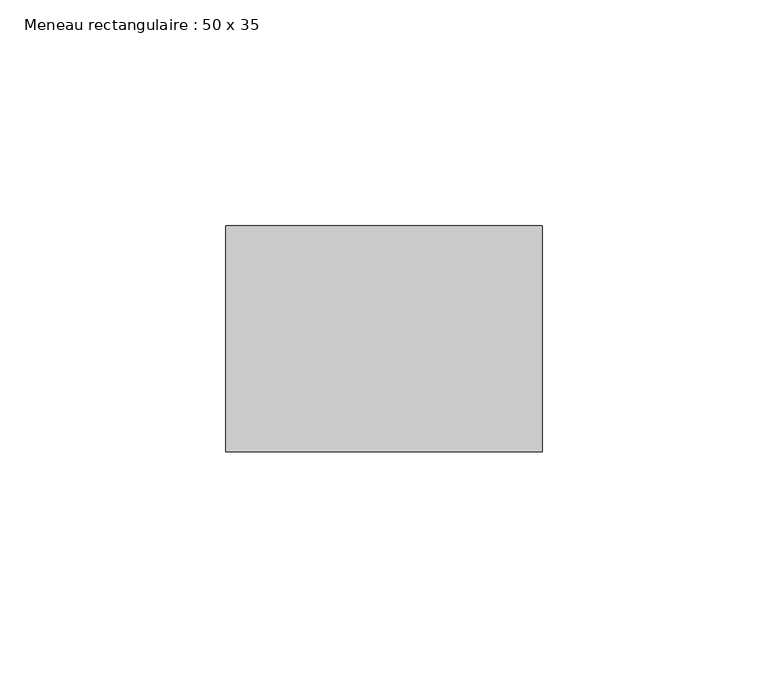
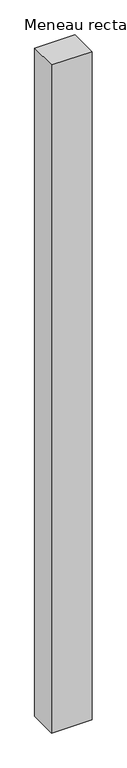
"""IFC4 building model written with IfcOpenShell, lengths in millimetres: member geometry, Meneau rectangulaire : 50 x 35."""

from ifc_helpers import new_model, si_unit, frame, origin, place, context, project, spatial, polyline, outline, extrude, source, transform, mapped, element, save


def meneau_rectangulaire_50_x_35_f06b4c6d(model_context):
    return source(origin(), model_context, "Body", "SweptSolid", [
        extrude(outline(polyline([(0.0, 0.0), (0.0, -50.0), (-70.0, -50.0), (-70.0, 0.0), (0.0, 0.0)])), frame((0.0, 0.0, -1221.0), z_axis=(0.0, 0.0, 1.0), x_axis=(1.0, 0.0, 0.0)), (0.0, 0.0, 1.0), 1221.0),
    ])


if __name__ == "__main__":
    model = new_model("IFC4")
    model_context = context("Model", 3, world=origin())
    ifc_project = project(units=[si_unit("LENGTHUNIT", "METRE", prefix="MILLI")], contexts=[model_context])
    site = spatial("IfcSite", under=ifc_project)
    building = spatial("IfcBuilding", under=site)
    placement = place(None, origin())
    meneau_rectangulaire_50_x_35_shape = meneau_rectangulaire_50_x_35_f06b4c6d(model_context)
    element("IfcMember", 1, ObjectType="Meneau rectangulaire : 50 x 35", at=placement, inside=building, context=model_context, shape_type="MappedRepresentation", body=[
        mapped(meneau_rectangulaire_50_x_35_shape, transform((0.0, 0.0, 0.0), x_axis=(1.0, 0.0, 0.0), y_axis=(0.0, 1.0, 0.0), z_axis=(0.0, 0.0, 1.0))),
    ])
    save(model, "model.ifc")
